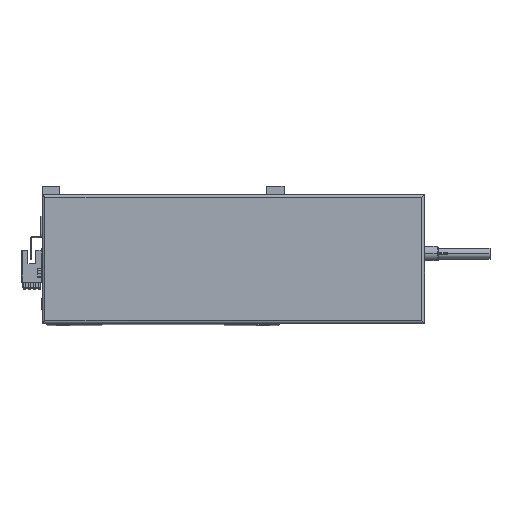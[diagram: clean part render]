
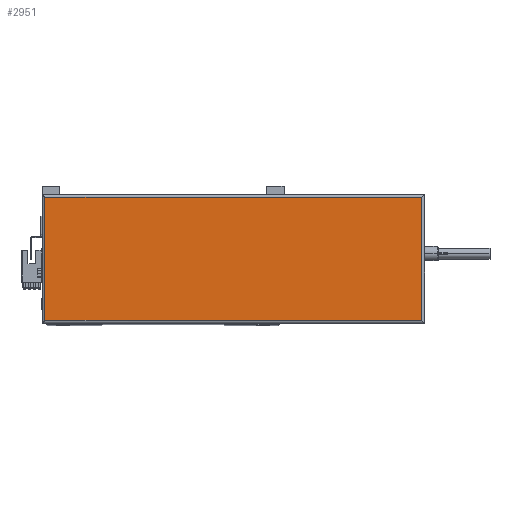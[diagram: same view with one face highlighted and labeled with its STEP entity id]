
A CAD part, top view. The second image highlights one B-rep face of the part: STEP entity #2951.
In plain terms, the highlighted planar face has unit normal (0, 0, 1).
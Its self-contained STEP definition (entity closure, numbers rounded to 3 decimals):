
#214 = VECTOR ( 'NONE', #41204, 1000. ) ;
#898 = ORIENTED_EDGE ( 'NONE', *, *, #26858, .T. ) ;
#1391 = ORIENTED_EDGE ( 'NONE', *, *, #11210, .T. ) ;
#2951 = ADVANCED_FACE ( 'NONE', ( #29517 ), #9354, .T. ) ;
#3857 = VECTOR ( 'NONE', #45820, 1000. ) ;
#6876 = CARTESIAN_POINT ( 'NONE',  ( 2., 88., 44.8 ) ) ;
#9354 = PLANE ( 'NONE',  #46915 ) ;
#11029 = CARTESIAN_POINT ( 'NONE',  ( 267., 2., 44.8 ) ) ;
#11210 = EDGE_CURVE ( 'NONE', #16566, #29605, #41784, .T. ) ;
#11392 = VECTOR ( 'NONE', #26383, 1000. ) ;
#12997 = CARTESIAN_POINT ( 'NONE',  ( 265., 2., 44.8 ) ) ;
#13193 = DIRECTION ( 'NONE',  ( 1., 0., 0. ) ) ;
#14475 = CARTESIAN_POINT ( 'NONE',  ( 265., 90., 44.8 ) ) ;
#15214 = EDGE_CURVE ( 'NONE', #29605, #33672, #21537, .T. ) ;
#16566 = VERTEX_POINT ( 'NONE', #22001 ) ;
#21537 = LINE ( 'NONE', #38134, #11392 ) ;
#21618 = CARTESIAN_POINT ( 'NONE',  ( 0., 88., 44.8 ) ) ;
#22001 = CARTESIAN_POINT ( 'NONE',  ( 265., 88., 44.8 ) ) ;
#22900 = LINE ( 'NONE', #14475, #214 ) ;
#25248 = DIRECTION ( 'NONE',  ( -1., 0., 0. ) ) ;
#26383 = DIRECTION ( 'NONE',  ( 0., -1., 0. ) ) ;
#26858 = EDGE_CURVE ( 'NONE', #33672, #32915, #40349, .T. ) ;
#27866 = EDGE_CURVE ( 'NONE', #32915, #16566, #22900, .T. ) ;
#28246 = DIRECTION ( 'NONE',  ( 0., 0., 1. ) ) ;
#29517 = FACE_OUTER_BOUND ( 'NONE', #36959, .T. ) ;
#29605 = VERTEX_POINT ( 'NONE', #6876 ) ;
#32915 = VERTEX_POINT ( 'NONE', #12997 ) ;
#33672 = VERTEX_POINT ( 'NONE', #34477 ) ;
#34477 = CARTESIAN_POINT ( 'NONE',  ( 2., 2., 44.8 ) ) ;
#36959 = EDGE_LOOP ( 'NONE', ( #42299, #1391, #42345, #898 ) ) ;
#38134 = CARTESIAN_POINT ( 'NONE',  ( 2., 0., 44.8 ) ) ;
#40349 = LINE ( 'NONE', #11029, #3857 ) ;
#41204 = DIRECTION ( 'NONE',  ( 0., 1., 0. ) ) ;
#41784 = LINE ( 'NONE', #21618, #47781 ) ;
#42299 = ORIENTED_EDGE ( 'NONE', *, *, #27866, .T. ) ;
#42345 = ORIENTED_EDGE ( 'NONE', *, *, #15214, .T. ) ;
#45820 = DIRECTION ( 'NONE',  ( 1., 0., 0. ) ) ;
#46915 = AXIS2_PLACEMENT_3D ( 'NONE', #47328, #28246, #13193 ) ;
#47328 = CARTESIAN_POINT ( 'NONE',  ( 133.5, 45., 44.8 ) ) ;
#47781 = VECTOR ( 'NONE', #25248, 1000. ) ;
